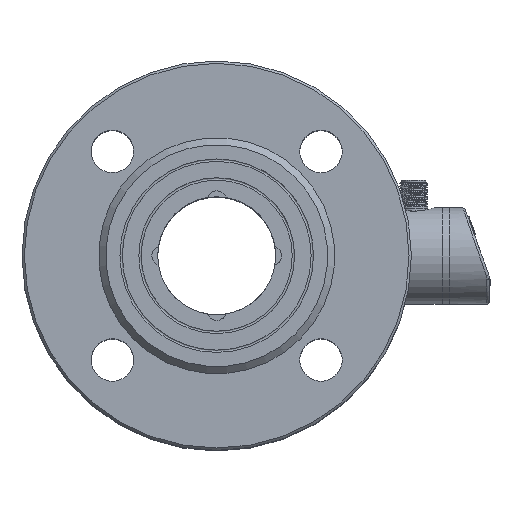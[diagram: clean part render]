
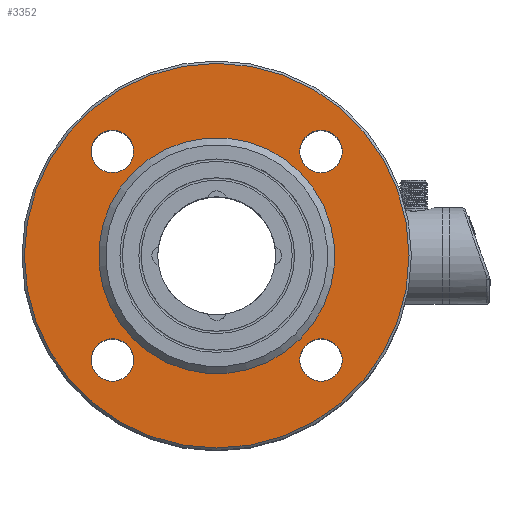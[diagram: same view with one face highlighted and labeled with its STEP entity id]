
A CAD part, top view. The second image highlights one B-rep face of the part: STEP entity #3352.
In plain terms, the highlighted planar face has unit normal (0, 0, 1).
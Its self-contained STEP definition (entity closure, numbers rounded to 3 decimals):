
#3170=PLANE('',#9750);
#3352=ADVANCED_FACE('',(#4055,#4056,#4057,#4058,#4059,#4060),#3170,.T.);
#4055=FACE_BOUND('',#4310,.T.);
#4056=FACE_BOUND('',#4311,.T.);
#4057=FACE_BOUND('',#4312,.T.);
#4058=FACE_BOUND('',#4313,.T.);
#4059=FACE_BOUND('',#4314,.T.);
#4060=FACE_BOUND('',#4315,.T.);
#4310=EDGE_LOOP('',(#4967));
#4311=EDGE_LOOP('',(#4968));
#4312=EDGE_LOOP('',(#4969));
#4313=EDGE_LOOP('',(#4970));
#4314=EDGE_LOOP('',(#4971));
#4315=EDGE_LOOP('',(#4972));
#4967=ORIENTED_EDGE('',*,*,#8059,.T.);
#4968=ORIENTED_EDGE('',*,*,#8060,.F.);
#4969=ORIENTED_EDGE('',*,*,#8061,.T.);
#4970=ORIENTED_EDGE('',*,*,#8062,.T.);
#4971=ORIENTED_EDGE('',*,*,#8063,.T.);
#4972=ORIENTED_EDGE('',*,*,#8064,.T.);
#7285=VERTEX_POINT('',#13196);
#7286=VERTEX_POINT('',#13198);
#7287=VERTEX_POINT('',#13200);
#7288=VERTEX_POINT('',#13202);
#7289=VERTEX_POINT('',#13204);
#7290=VERTEX_POINT('',#13206);
#8059=EDGE_CURVE('',#7285,#7285,#9218,.T.);
#8060=EDGE_CURVE('',#7286,#7286,#9219,.T.);
#8061=EDGE_CURVE('',#7287,#7287,#9220,.T.);
#8062=EDGE_CURVE('',#7288,#7288,#9221,.T.);
#8063=EDGE_CURVE('',#7289,#7289,#9222,.T.);
#8064=EDGE_CURVE('',#7290,#7290,#9223,.T.);
#9218=CIRCLE('',#9744,81.5);
#9219=CIRCLE('',#9745,50.);
#9220=CIRCLE('',#9746,9.);
#9221=CIRCLE('',#9747,9.);
#9222=CIRCLE('',#9748,9.);
#9223=CIRCLE('',#9749,9.);
#9744=AXIS2_PLACEMENT_3D('',#13195,#10751,#10752);
#9745=AXIS2_PLACEMENT_3D('',#13197,#10753,#10754);
#9746=AXIS2_PLACEMENT_3D('',#13199,#10755,#10756);
#9747=AXIS2_PLACEMENT_3D('',#13201,#10757,#10758);
#9748=AXIS2_PLACEMENT_3D('',#13203,#10759,#10760);
#9749=AXIS2_PLACEMENT_3D('',#13205,#10761,#10762);
#9750=AXIS2_PLACEMENT_3D('',#13207,#10763,#10764);
#10751=DIRECTION('',(0.,0.,1.));
#10752=DIRECTION('',(1.,0.,0.));
#10753=DIRECTION('',(0.,0.,1.));
#10754=DIRECTION('',(0.707,0.707,0.));
#10755=DIRECTION('',(0.,0.,-1.));
#10756=DIRECTION('',(0.,-1.,0.));
#10757=DIRECTION('',(0.,0.,-1.));
#10758=DIRECTION('',(0.,1.,0.));
#10759=DIRECTION('',(0.,0.,-1.));
#10760=DIRECTION('',(-1.,0.,0.));
#10761=DIRECTION('',(0.,0.,-1.));
#10762=DIRECTION('',(1.,0.,0.));
#10763=DIRECTION('',(0.,0.,1.));
#10764=DIRECTION('',(-0.707,-0.707,0.));
#13195=CARTESIAN_POINT('',(0.,0.,-0.4));
#13196=CARTESIAN_POINT('',(81.5,0.,-0.4));
#13197=CARTESIAN_POINT('',(0.,0.,-0.4));
#13198=CARTESIAN_POINT('',(35.355,35.355,-0.4));
#13199=CARTESIAN_POINT('',(44.194,-44.194,-0.4));
#13200=CARTESIAN_POINT('',(44.194,-53.194,-0.4));
#13201=CARTESIAN_POINT('',(-44.194,44.194,-0.4));
#13202=CARTESIAN_POINT('',(-44.194,53.194,-0.4));
#13203=CARTESIAN_POINT('',(-44.194,-44.194,-0.4));
#13204=CARTESIAN_POINT('',(-53.194,-44.194,-0.4));
#13205=CARTESIAN_POINT('',(44.194,44.194,-0.4));
#13206=CARTESIAN_POINT('',(53.194,44.194,-0.4));
#13207=CARTESIAN_POINT('',(0.,0.,-0.4));
